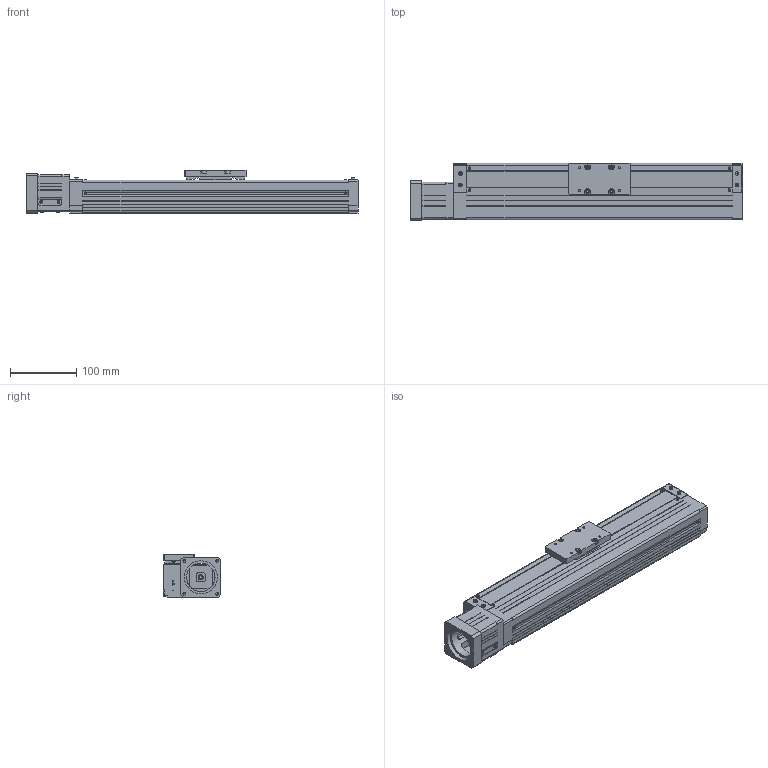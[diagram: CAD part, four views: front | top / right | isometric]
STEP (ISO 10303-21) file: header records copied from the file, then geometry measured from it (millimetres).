
FILE_DESCRIPTION((''),'2;1');
FILE_NAME('D:\製品 (図面)\カタログ用3D\SU部品\SU85×65\ダウンロード用\SU85×65-MB60\SU85×65-300-MB60.stp','2011-07-01T17:47:55',('Tsuchiya'),(''),'Autodesk Inventor 10','Autodesk Inventor 10','');
FILE_SCHEMA(('AUTOMOTIVE_DESIGN { 1 0 10303 214 1 1 1 1 }'));
Length unit declared in the file: millimetre
Products named in the file (3): SU85×65-300-MB60; SU85×65-300-MB601; SU85×65-300-MB602
Assembly tree (2 placements, depth 2):
  SU85×65-300-MB60
    SU85×65-300-MB601
    SU85×65-300-MB602
Bounding box: 501 x 86.45 x 65 mm (x, y, z)
Volume: 969876.7 mm3; surface area: 319308.7 mm2
Topology: 8 solids, 8 shells, 833 faces, 2214 edges, 1434 vertices
Faces by surface type: plane 699, cylinder 100, cone 18, torus 12, bspline 4
Full cylindrical faces by diameter (mm): 3.242 x4, 4 x4, 4.134 x12, 4.5 x4, 5.5 x4, 6 x1, 7 x4, 8 x1, 11.5 x1, 12 x1, 13 x1, 43 x1, 50 x1
Entity records: 25598 total; most frequent: CARTESIAN_POINT 5159, ORIENTED_EDGE 4222, DIRECTION 4000, EDGE_CURVE 2111, VECTOR 1714, LINE 1714, VERTEX_POINT 1404, AXIS2_PLACEMENT_3D 1143
